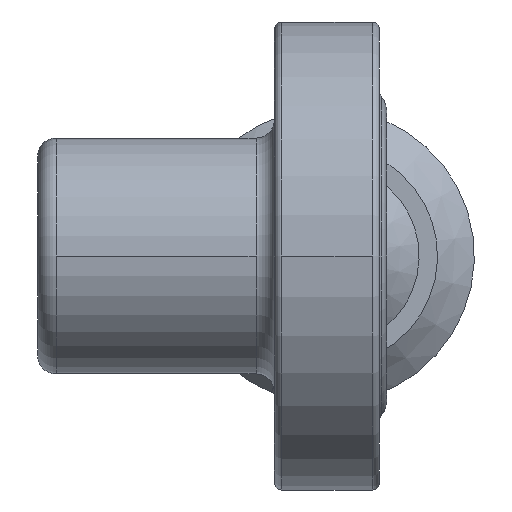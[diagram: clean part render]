
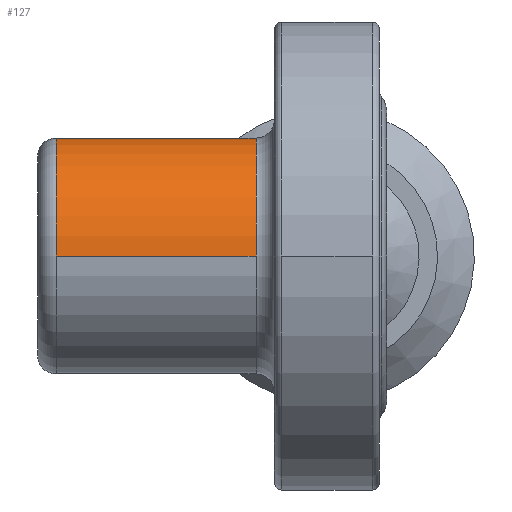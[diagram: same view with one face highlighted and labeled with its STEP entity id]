
A CAD part, left-side view. The second image highlights one B-rep face of the part: STEP entity #127.
In plain terms, the highlighted cylindrical face has radius 3.2 mm (diameter 6.4 mm), a partial arc.
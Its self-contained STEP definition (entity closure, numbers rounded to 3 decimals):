
#127=ADVANCED_FACE('',(#188),#189,.T.);
#188=FACE_OUTER_BOUND('',#307,.T.);
#189=CYLINDRICAL_SURFACE('',#308,3.2);
#307=EDGE_LOOP('',(#455,#456,#457,#458,#459,#460));
#308=AXIS2_PLACEMENT_3D('',#461,#462,#463);
#455=ORIENTED_EDGE('',*,*,#869,.F.);
#456=ORIENTED_EDGE('',*,*,#870,.T.);
#457=ORIENTED_EDGE('',*,*,#871,.T.);
#458=ORIENTED_EDGE('',*,*,#872,.F.);
#459=ORIENTED_EDGE('',*,*,#873,.F.);
#460=ORIENTED_EDGE('',*,*,#865,.F.);
#461=CARTESIAN_POINT('',(0.0,6.263,0.0));
#462=DIRECTION('',(0.0,-1.0,0.0));
#463=DIRECTION('',(1.0,0.0,0.0));
#865=EDGE_CURVE('',#1012,#1014,#1015,.T.);
#869=EDGE_CURVE('',#1021,#1012,#1022,.T.);
#870=EDGE_CURVE('',#1021,#1023,#1024,.T.);
#871=EDGE_CURVE('',#1023,#1025,#1026,.T.);
#872=EDGE_CURVE('',#1027,#1025,#1028,.T.);
#873=EDGE_CURVE('',#1014,#1027,#1029,.T.);
#1012=VERTEX_POINT('',#1264);
#1014=VERTEX_POINT('',#1266);
#1015=CIRCLE('',#1267,3.2);
#1021=VERTEX_POINT('',#1273);
#1022=LINE('',#1274,#1275);
#1023=VERTEX_POINT('',#1276);
#1024=CIRCLE('',#1277,3.2);
#1025=VERTEX_POINT('',#1278);
#1026=CIRCLE('',#1279,3.2);
#1027=VERTEX_POINT('',#1280);
#1028=LINE('',#1281,#1282);
#1029=CIRCLE('',#1283,3.2);
#1264=CARTESIAN_POINT('',(3.2,3.55,0.0));
#1266=CARTESIAN_POINT('',(0.,3.55,3.2));
#1267=AXIS2_PLACEMENT_3D('',#1576,#1577,#1578);
#1273=CARTESIAN_POINT('',(3.2,8.976,0.0));
#1274=CARTESIAN_POINT('',(3.2,6.263,0.));
#1275=VECTOR('',#1588,1.0);
#1276=CARTESIAN_POINT('',(0.,8.976,3.2));
#1277=AXIS2_PLACEMENT_3D('',#1589,#1590,#1591);
#1278=CARTESIAN_POINT('',(-3.2,8.976,0.));
#1279=AXIS2_PLACEMENT_3D('',#1592,#1593,#1594);
#1280=CARTESIAN_POINT('',(-3.2,3.55,0.));
#1281=CARTESIAN_POINT('',(-3.2,6.263,0.));
#1282=VECTOR('',#1595,1.0);
#1283=AXIS2_PLACEMENT_3D('',#1596,#1597,#1598);
#1576=CARTESIAN_POINT('',(0.0,3.55,0.0));
#1577=DIRECTION('',(0.0,-1.0,0.0));
#1578=DIRECTION('',(1.0,0.0,0.0));
#1588=DIRECTION('',(0.0,-1.0,0.0));
#1589=CARTESIAN_POINT('',(0.0,8.976,0.0));
#1590=DIRECTION('',(0.0,-1.0,0.0));
#1591=DIRECTION('',(1.0,0.0,0.0));
#1592=CARTESIAN_POINT('',(0.0,8.976,0.0));
#1593=DIRECTION('',(0.0,-1.0,0.0));
#1594=DIRECTION('',(1.0,0.0,0.0));
#1595=DIRECTION('',(0.0,1.0,0.0));
#1596=CARTESIAN_POINT('',(0.0,3.55,0.0));
#1597=DIRECTION('',(0.0,-1.0,0.0));
#1598=DIRECTION('',(1.0,0.0,0.0));
